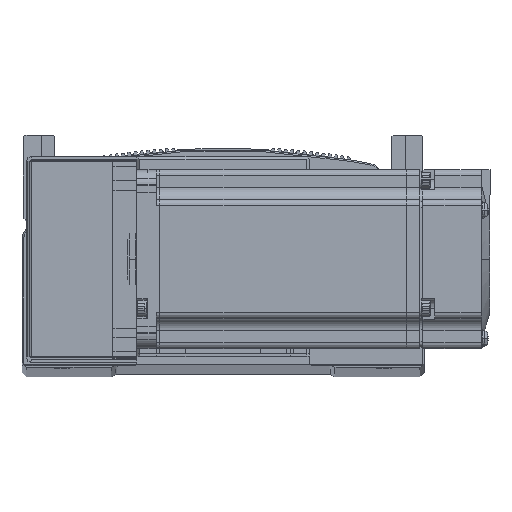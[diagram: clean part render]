
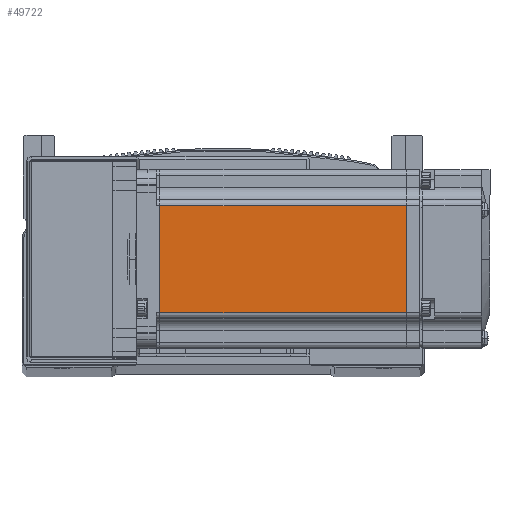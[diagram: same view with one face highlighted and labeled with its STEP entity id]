
A CAD part, top view. The second image highlights one B-rep face of the part: STEP entity #49722.
In plain terms, the highlighted planar face has unit normal (0, 0, 1) as drawn and (0, 0, -1) by its records, which use the part's own axes.
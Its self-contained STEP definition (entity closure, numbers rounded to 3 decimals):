
#1467 = AXIS2_PLACEMENT_3D ( 'NONE', #36252, #36418, #36340 ) ;
#5726 = LINE ( 'NONE', #58815, #5760 ) ;
#5760 = VECTOR ( 'NONE', #58896, 1000. ) ;
#5816 = VECTOR ( 'NONE', #59170, 1000. ) ;
#5862 = LINE ( 'NONE', #59137, #5816 ) ;
#5936 = VECTOR ( 'NONE', #59509, 1000. ) ;
#5937 = VECTOR ( 'NONE', #59543, 1000. ) ;
#5963 = LINE ( 'NONE', #59577, #5936 ) ;
#5970 = LINE ( 'NONE', #59493, #5937 ) ;
#21488 = EDGE_CURVE ( 'NONE', #77092, #77185, #5726, .T. ) ;
#21548 = EDGE_CURVE ( 'NONE', #77013, #77092, #5862, .T. ) ;
#21589 = EDGE_CURVE ( 'NONE', #77097, #77013, #5970, .T. ) ;
#21596 = EDGE_CURVE ( 'NONE', #77185, #77097, #5963, .T. ) ;
#27526 = EDGE_LOOP ( 'NONE', ( #65590, #65633, #65619, #65593 ) ) ;
#35434 = CARTESIAN_POINT ( 'NONE',  ( -90.45, 18., -30. ) ) ;
#35729 = CARTESIAN_POINT ( 'NONE',  ( -7.75, 18., -30. ) ) ;
#35772 = CARTESIAN_POINT ( 'NONE',  ( -90.45, -18., -30. ) ) ;
#36245 = CARTESIAN_POINT ( 'NONE',  ( -7.75, -18., -30. ) ) ;
#36252 = CARTESIAN_POINT ( 'NONE',  ( -6.5, 25., -30. ) ) ;
#36279 = PLANE ( 'NONE',  #1467 ) ;
#36340 = DIRECTION ( 'NONE',  ( -1., 0., 0. ) ) ;
#36418 = DIRECTION ( 'NONE',  ( 0., 0., -1. ) ) ;
#49722 = ADVANCED_FACE ( 'NONE', ( #67054 ), #36279, .T. ) ;
#58815 = CARTESIAN_POINT ( 'NONE',  ( -7.75, 25., -30. ) ) ;
#58896 = DIRECTION ( 'NONE',  ( 0., -1., 0. ) ) ;
#59137 = CARTESIAN_POINT ( 'NONE',  ( -6.5, 18., -30. ) ) ;
#59170 = DIRECTION ( 'NONE',  ( 1., 0., 0. ) ) ;
#59493 = CARTESIAN_POINT ( 'NONE',  ( -90.45, 25., -30. ) ) ;
#59509 = DIRECTION ( 'NONE',  ( -1., 0., 0. ) ) ;
#59543 = DIRECTION ( 'NONE',  ( 0., 1., 0. ) ) ;
#59577 = CARTESIAN_POINT ( 'NONE',  ( -6.5, -18., -30. ) ) ;
#65590 = ORIENTED_EDGE ( 'NONE', *, *, #21488, .T. ) ;
#65593 = ORIENTED_EDGE ( 'NONE', *, *, #21548, .T. ) ;
#65619 = ORIENTED_EDGE ( 'NONE', *, *, #21589, .T. ) ;
#65633 = ORIENTED_EDGE ( 'NONE', *, *, #21596, .T. ) ;
#67054 = FACE_OUTER_BOUND ( 'NONE', #27526, .T. ) ;
#77013 = VERTEX_POINT ( 'NONE', #35434 ) ;
#77092 = VERTEX_POINT ( 'NONE', #35729 ) ;
#77097 = VERTEX_POINT ( 'NONE', #35772 ) ;
#77185 = VERTEX_POINT ( 'NONE', #36245 ) ;
